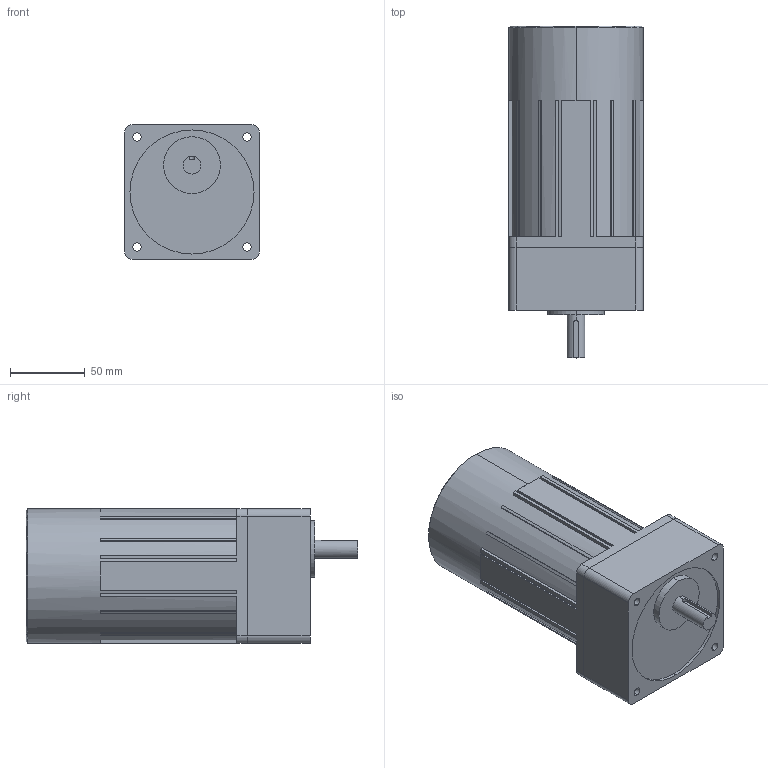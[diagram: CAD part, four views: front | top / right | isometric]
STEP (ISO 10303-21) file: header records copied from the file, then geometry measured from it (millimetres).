
FILE_DESCRIPTION (( 'STEP AP203' ), '1' );
FILE_NAME ('L9HK003B + L9R40PBLE.STEP', '2018-09-20T05:41:59', ( '' ), ( '' ), 'SwSTEP 2.0', 'SolidWorks 2017', '' );
FILE_SCHEMA (( 'CONFIG_CONTROL_DESIGN' ));
Length unit declared in the file: millimetre
Products named in the file (1): L9HK003B + L9R40PBLE
Bounding box: 90 x 222 x 90 mm (x, y, z)
Volume: 1292221.9 mm3; surface area: 100598.5 mm2
Topology: 2 solids, 2 shells, 149 faces, 406 edges, 268 vertices
Faces by surface type: plane 106, cylinder 41, cone 2
Entity records: 4854 total; most frequent: CARTESIAN_POINT 854, DIRECTION 829, ORIENTED_EDGE 812, EDGE_CURVE 406, VECTOR 279, LINE 279, AXIS2_PLACEMENT_3D 275, VERTEX_POINT 268
